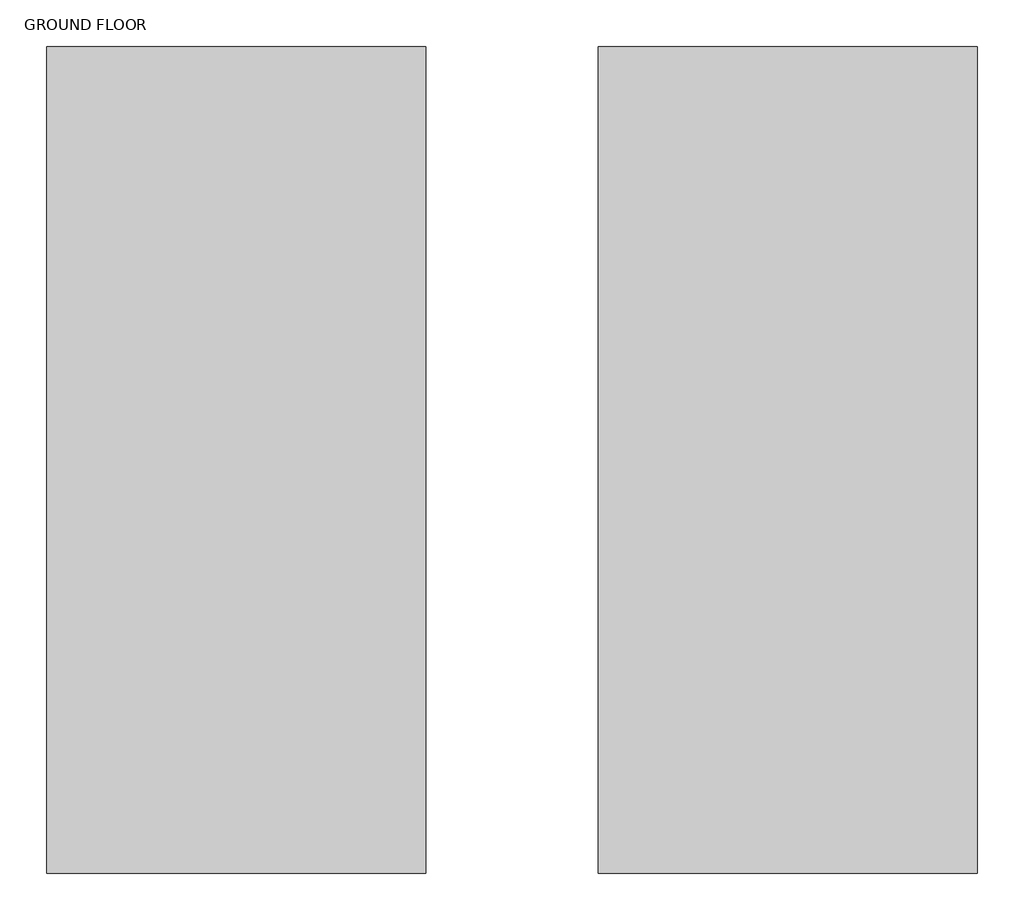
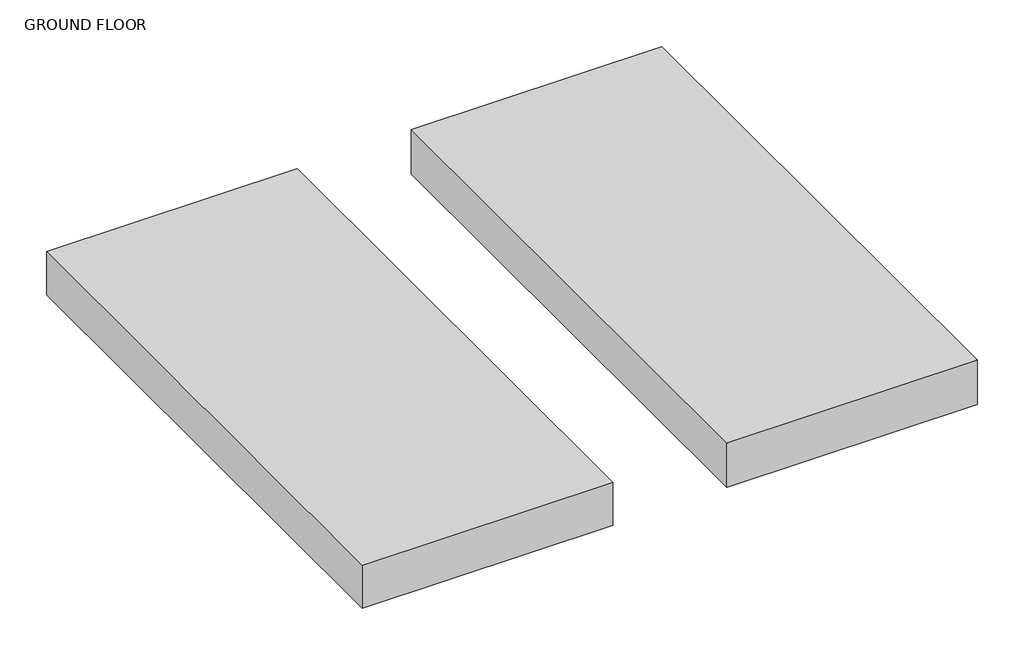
# One storey: 2 furniture elements.
"""IFC4 building model written with IfcOpenShell, lengths in millimetres."""

from ifc_helpers import new_model, si_unit, origin, place, context, project, spatial, transform, mapped, element, save
from components import casework_1_casework_1_6aa84fe4, casework_2_casework_1_4ff3fe48

model = new_model("IFC4")

# Units and contexts
model_context = context("Model", 3, world=origin())
ifc_project = project(units=[si_unit("LENGTHUNIT", "METRE", prefix="MILLI")], contexts=[model_context])

# Site, building, storey
site = spatial("IfcSite", under=ifc_project)
building = spatial("IfcBuilding", under=site)
storey = spatial("IfcBuildingStorey", under=building, Name="GROUND FLOOR", Elevation=0.0)

# Furniture
placement = place(None, origin())
casework_1_casework_1_shape = casework_1_casework_1_6aa84fe4(model_context)
element("IfcFurniture", 1, ObjectType="Casework 1 : Casework 1", at=placement, inside=storey, context=model_context, shape_type="MappedRepresentation", body=[
    mapped(casework_1_casework_1_shape, transform((0.0, 0.0, 0.0), x_axis=(1.0, 0.0, 0.0), y_axis=(0.0, 1.0, 0.0), z_axis=(0.0, 0.0, 1.0))),
])
casework_2_casework_1_shape = casework_2_casework_1_4ff3fe48(model_context)
element("IfcFurniture", 2, ObjectType="Casework 2 : Casework 1", at=placement, inside=storey, context=model_context, shape_type="MappedRepresentation", body=[
    mapped(casework_2_casework_1_shape, transform((0.0, 0.0, 0.0), x_axis=(1.0, 0.0, 0.0), y_axis=(0.0, 1.0, 0.0), z_axis=(0.0, 0.0, 1.0))),
])

save(model, "model.ifc")
